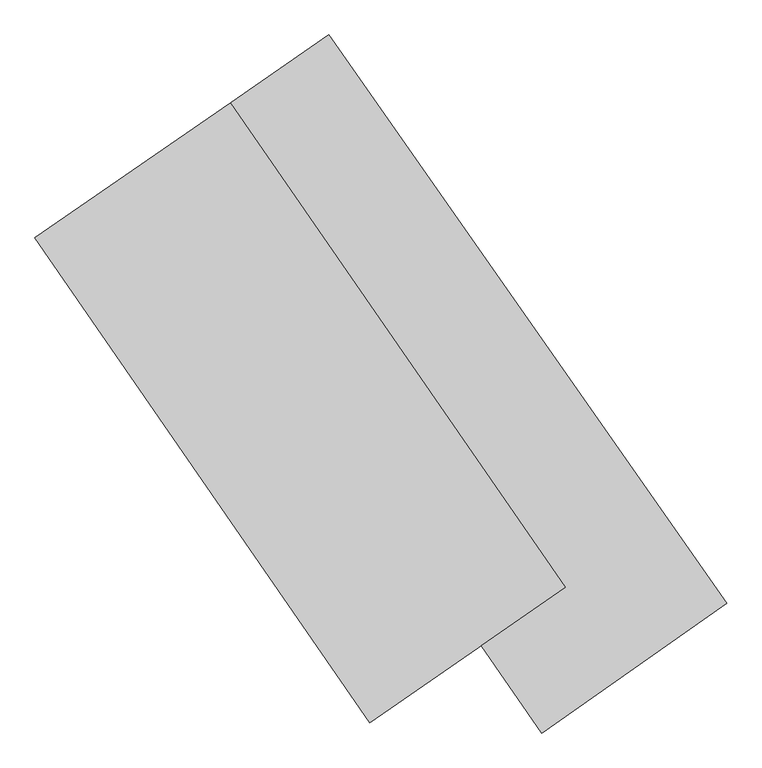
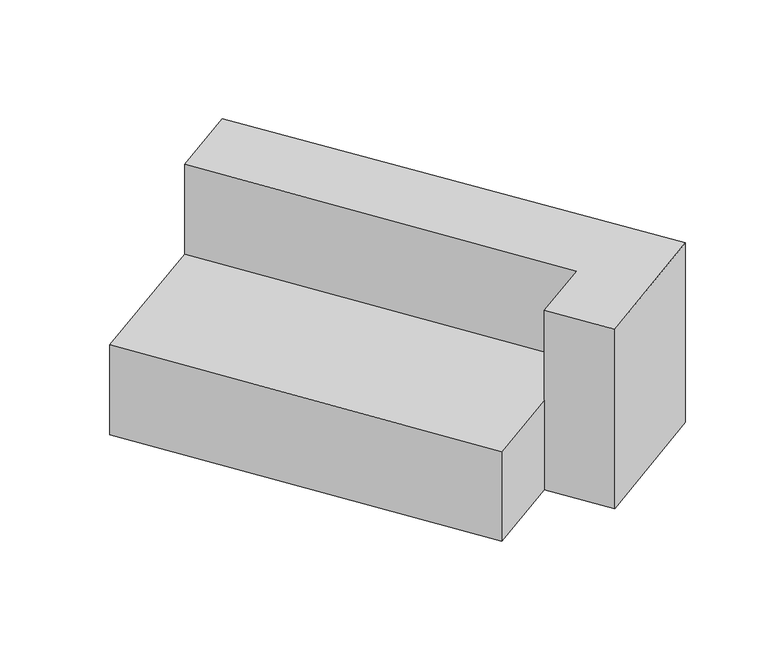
"""IFC4 building model written with IfcOpenShell, lengths in millimetres: furniture geometry, Eating area : Eating area."""

from ifc_helpers import new_model, si_unit, frame, origin, place, context, project, spatial, polyline, outline, extrude, source, transform, mapped, element, save


def furniture_41bca0cc(model_context):
    return source(origin(), model_context, "Body", "SweptSolid", [
        extrude(outline(polyline([(-4944.5798765, 13970.596757), (-3607.0148329, 12060.3559062), (-4229.5403344, 11624.4588573), (-4432.3490749, 11918.2629627), (-4148.9606706, 12113.8818948), (-5273.7679703, 13743.3629591), (-4944.5798765, 13970.596757)])), frame((0.0, 0.0, 150.0), z_axis=(0.0, 0.0, 1.0), x_axis=(1.0, 0.0, 0.0)), (0.0, 0.0, 1.0), 1000.0),
        extrude(outline(polyline([(-5273.7679703, 13743.3629591), (-4148.9606706, 12113.8818948), (-4807.3368582, 11659.414299), (-5932.1441578, 13288.8953633), (-5273.7679703, 13743.3629591)])), frame((0.0, 0.0, 150.0), z_axis=(0.0, 0.0, 1.0), x_axis=(1.0, 0.0, 0.0)), (0.0, 0.0, 1.0), 500.0),
    ])


if __name__ == "__main__":
    model = new_model("IFC4")
    model_context = context("Model", 3, world=origin())
    ifc_project = project(units=[si_unit("LENGTHUNIT", "METRE", prefix="MILLI")], contexts=[model_context])
    site = spatial("IfcSite", under=ifc_project)
    building = spatial("IfcBuilding", under=site)
    placement = place(None, origin())
    furniture_shape = furniture_41bca0cc(model_context)
    element("IfcFurniture", 1, ObjectType="Eating area : Eating area", at=placement, inside=building, context=model_context, shape_type="MappedRepresentation", body=[
        mapped(furniture_shape, transform((0.0, 0.0, 0.0), x_axis=(1.0, 0.0, 0.0), y_axis=(0.0, 1.0, 0.0), z_axis=(0.0, 0.0, 1.0))),
    ])
    save(model, "model.ifc")
